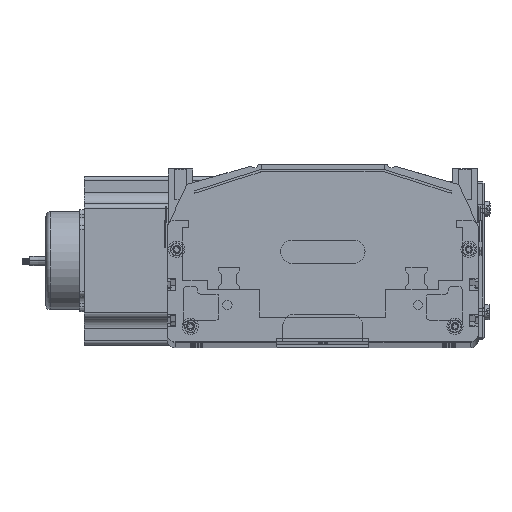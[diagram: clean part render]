
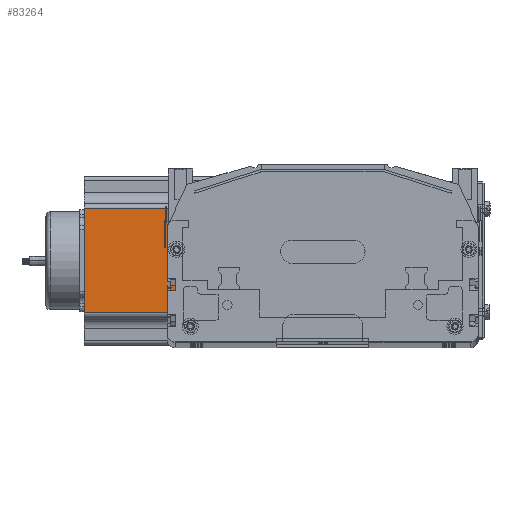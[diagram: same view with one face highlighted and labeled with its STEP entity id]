
A CAD part, top view. The second image highlights one B-rep face of the part: STEP entity #83264.
In plain terms, the highlighted planar face has unit normal (0, 0, 1) as drawn and (0, -1, 0) by its records, which use the part's own axes.
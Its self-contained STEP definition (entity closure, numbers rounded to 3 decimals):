
#12365 = CARTESIAN_POINT ( 'NONE',  ( 0., 0., 160.5 ) ) ;
#12366 = LINE ( 'NONE', #12365, #12786 ) ;
#12785 = DIRECTION ( 'NONE',  ( 1., 0., 0. ) ) ;
#12786 = VECTOR ( 'NONE', #12785, 1000. ) ;
#12789 = LINE ( 'NONE', #12797, #12796 ) ;
#12794 = DIRECTION ( 'NONE',  ( 0., 0., 1. ) ) ;
#12796 = VECTOR ( 'NONE', #12794, 1000. ) ;
#12797 = CARTESIAN_POINT ( 'NONE',  ( 88.952, 0., 160.5 ) ) ;
#13113 = CARTESIAN_POINT ( 'NONE',  ( 21.048, 0., 160.5 ) ) ;
#13120 = CARTESIAN_POINT ( 'NONE',  ( 88.952, 0., 160.5 ) ) ;
#13195 = VECTOR ( 'NONE', #13370, 1000. ) ;
#13196 = CARTESIAN_POINT ( 'NONE',  ( 21.048, 0., 160.5 ) ) ;
#13197 = LINE ( 'NONE', #13196, #13195 ) ;
#13198 = CARTESIAN_POINT ( 'NONE',  ( 88.952, 0., 0. ) ) ;
#13199 = LINE ( 'NONE', #13366, #13365 ) ;
#13364 = DIRECTION ( 'NONE',  ( 1., 0., 0. ) ) ;
#13365 = VECTOR ( 'NONE', #13364, 1000. ) ;
#13366 = CARTESIAN_POINT ( 'NONE',  ( 0., 0., 0. ) ) ;
#13368 = AXIS2_PLACEMENT_3D ( 'NONE', #13411, #13410, #13409 ) ;
#13369 = CARTESIAN_POINT ( 'NONE',  ( 21.048, 0., 0. ) ) ;
#13370 = DIRECTION ( 'NONE',  ( 0., 0., -1. ) ) ;
#13409 = DIRECTION ( 'NONE',  ( 0., 0., 1. ) ) ;
#13410 = DIRECTION ( 'NONE',  ( 0., 1., 0. ) ) ;
#13411 = CARTESIAN_POINT ( 'NONE',  ( 0., 0., 160.5 ) ) ;
#13425 = FACE_OUTER_BOUND ( 'NONE', #84989, .T. ) ;
#13433 = PLANE ( 'NONE',  #13368 ) ;
#83238 = ORIENTED_EDGE ( 'NONE', *, *, #83239, .T. ) ;
#83239 = EDGE_CURVE ( 'NONE', #83265, #83240, #12789, .T. ) ;
#83240 = VERTEX_POINT ( 'NONE', #13120 ) ;
#83241 = VERTEX_POINT ( 'NONE', #13113 ) ;
#83242 = EDGE_CURVE ( 'NONE', #83241, #83240, #12366, .T. ) ;
#83244 = EDGE_CURVE ( 'NONE', #83241, #83252, #13197, .T. ) ;
#83249 = EDGE_CURVE ( 'NONE', #83252, #83265, #13199, .T. ) ;
#83252 = VERTEX_POINT ( 'NONE', #13369 ) ;
#83254 = ORIENTED_EDGE ( 'NONE', *, *, #83244, .T. ) ;
#83260 = ORIENTED_EDGE ( 'NONE', *, *, #83249, .T. ) ;
#83263 = ORIENTED_EDGE ( 'NONE', *, *, #83242, .F. ) ;
#83264 = ADVANCED_FACE ( 'NONE', ( #13425 ), #13433, .F. ) ;
#83265 = VERTEX_POINT ( 'NONE', #13198 ) ;
#84989 = EDGE_LOOP ( 'NONE', ( #83260, #83238, #83263, #83254 ) ) ;
